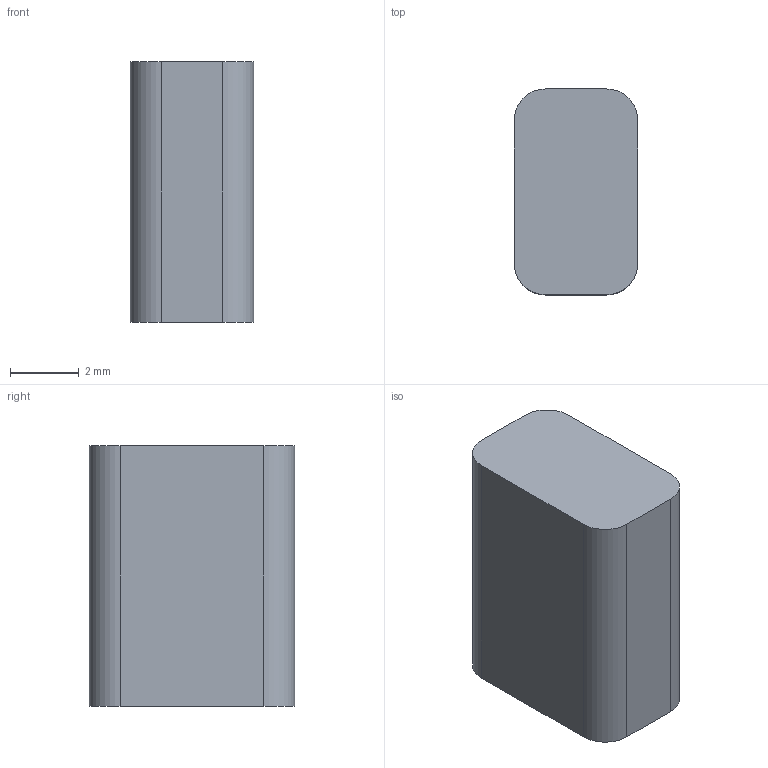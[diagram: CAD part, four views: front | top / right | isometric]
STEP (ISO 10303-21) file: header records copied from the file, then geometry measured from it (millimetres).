
FILE_DESCRIPTION(('Open CASCADE Model'),'2;1');
FILE_NAME('CUT_P02_MIC_WIRE_WINDOW_NO_THIN_FINS','2026-09-15T14:22:11',( 'Author'),('Open CASCADE'),'Open CASCADE STEP processor 7.9', 'build123d','Unknown');
FILE_SCHEMA(('AUTOMOTIVE_DESIGN { 1 0 10303 214 1 1 1 1 }'));
Length unit declared in the file: millimetre
Products named in the file (1): CUT_P02_MIC_WIRE_WINDOW_NO_THIN_FINS
Bounding box: 3.6 x 6 x 7.6 mm (x, y, z)
Volume: 158.9 mm3; surface area: 176 mm2
Topology: 1 solids, 1 shells, 10 faces, 24 edges, 16 vertices
Faces by surface type: plane 6, cylinder 4
Entity records: 618 total; most frequent: DIRECTION 102, CARTESIAN_POINT 99, LINE 56, VECTOR 56, ORIENTED_EDGE 48, PCURVE 48, DEFINITIONAL_REPRESENTATION 48, EDGE_CURVE 24
